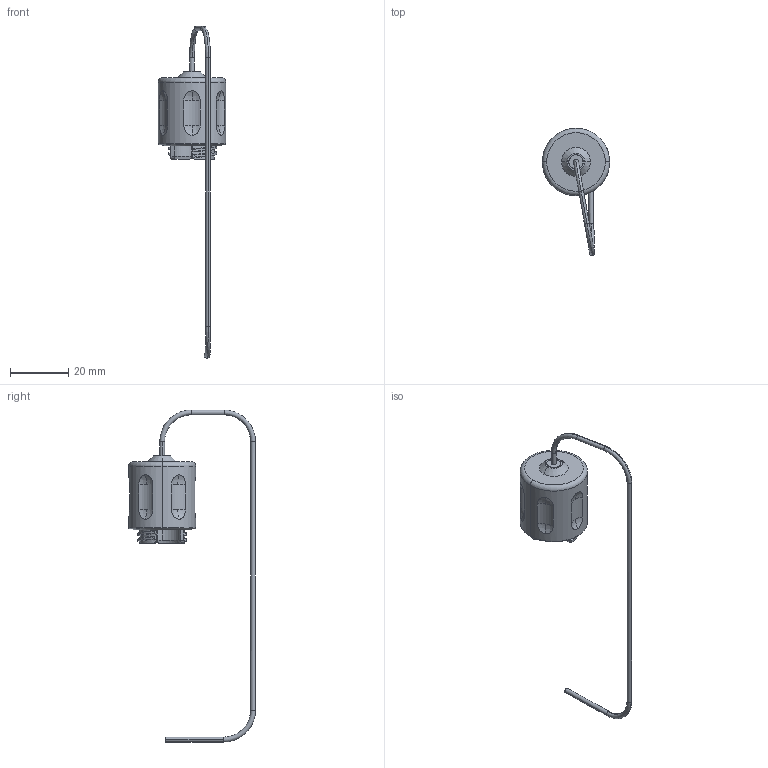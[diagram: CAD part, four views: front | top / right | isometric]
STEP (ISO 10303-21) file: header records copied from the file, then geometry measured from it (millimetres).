
FILE_DESCRIPTION (( 'STEP AP214' ), '1' );
FILE_NAME ('QMICRO-DCHPX.STEP', '2025-05-02T23:41:43', ( '' ), ( '' ), 'SwSTEP 2.0', 'SolidWorks 2024', '' );
FILE_SCHEMA (( 'AUTOMOTIVE_DESIGN' ));
Length unit declared in the file: inch
Products named in the file (1): QMICRO-DCHPX
Bounding box: 23.15 x 43.67 x 114.17 mm (x, y, z)
Volume: 9127.2 mm3; surface area: 5150.8 mm2
Topology: 2 solids, 2 shells, 162 faces, 410 edges, 264 vertices
Faces by surface type: cylinder 60, plane 26, sphere 24, bspline 19, torus 18, cone 15
Entity records: 8116 total; most frequent: CARTESIAN_POINT 4444, ORIENTED_EDGE 820, DIRECTION 706, EDGE_CURVE 410, AXIS2_PLACEMENT_3D 298, VERTEX_POINT 264, EDGE_LOOP 176, FACE_OUTER_BOUND 162
